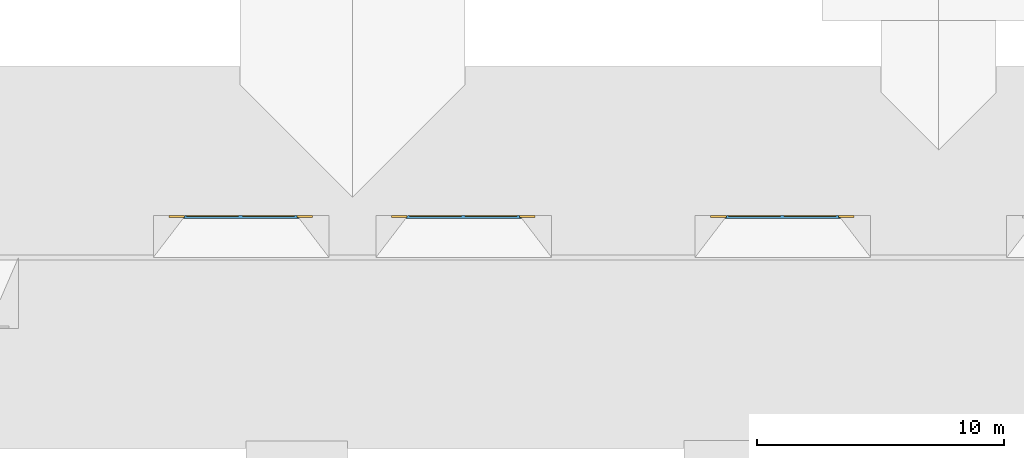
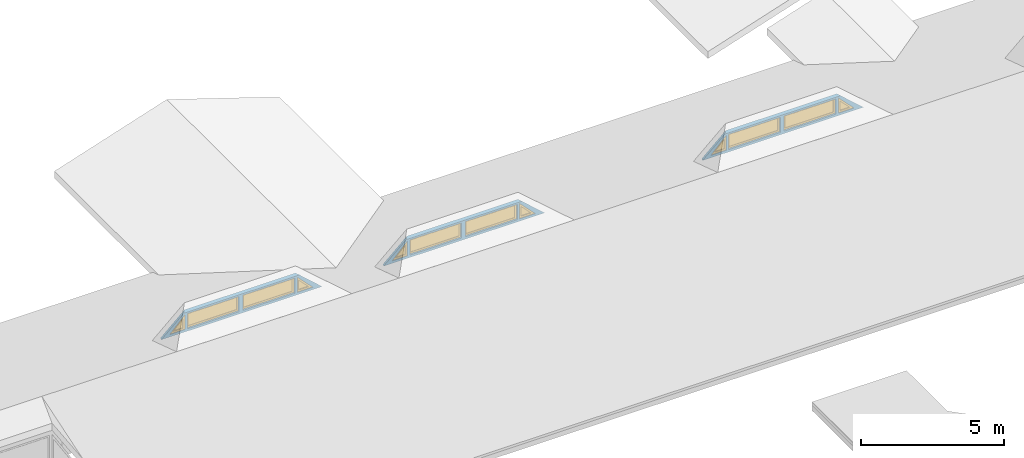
# One storey, part 4 of 7: 12 windows, 3 walls, 12 openings.
"""IFC2X3 building model written with IfcOpenShell, lengths in millimetres."""

from ifc_helpers import new_model, entity, si_unit, converted_unit, derived_unit, money_unit, direction, frame, origin_with_axes, place, context, subcontext, project, spatial, open_shell, faceted_brep, surface_model, source, transform, mapped, material, type_object, element, fill, save


model = new_model("IFC2X3")

# Units and contexts
model_context = context("Model", 3, precision=0.01, world=origin_with_axes(), true_north=direction((0.0, 1.0)))
body_context = subcontext(model_context, "Body", "Model", "MODEL_VIEW")
ifc_project = project(units=[si_unit("LENGTHUNIT", "METRE", prefix="MILLI"), si_unit("AREAUNIT", "SQUARE_METRE"), si_unit("VOLUMEUNIT", "CUBIC_METRE"), converted_unit("PLANEANGLEUNIT", "DEGREE", entity("IfcPlaneAngleMeasure", 0.0174532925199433), si_unit("PLANEANGLEUNIT", "RADIAN"), dimensions=[0, 0, 0, 0, 0, 0, 0]), money_unit("USD"), converted_unit("TIMEUNIT", "Year", entity("IfcTimeMeasure", 31557600.0), si_unit("TIMEUNIT", "SECOND"), dimensions=[0, 0, 1, 0, 0, 0, 0]), si_unit("MASSUNIT", "GRAM", prefix="KILO"), si_unit("THERMODYNAMICTEMPERATUREUNIT", "DEGREE_CELSIUS"), si_unit("LUMINOUSINTENSITYUNIT", "LUMEN"), si_unit("ENERGYUNIT", "JOULE", prefix="MEGA"), derived_unit("THERMALCONDUCTANCEUNIT", [(si_unit("POWERUNIT", "WATT"), 1), (si_unit("LENGTHUNIT", "METRE"), -1), (si_unit("THERMODYNAMICTEMPERATUREUNIT", "KELVIN"), -1)]), derived_unit("SPECIFICHEATCAPACITYUNIT", [(si_unit("ENERGYUNIT", "JOULE"), 1), (si_unit("MASSUNIT", "GRAM", prefix="KILO"), -1), (si_unit("THERMODYNAMICTEMPERATUREUNIT", "KELVIN"), -1)]), derived_unit("MASSDENSITYUNIT", [(si_unit("MASSUNIT", "GRAM", prefix="KILO"), 1), (si_unit("VOLUMEUNIT", "CUBIC_METRE"), -1)])], contexts=[model_context])

# Site, building, storey
site_placement = place(None, origin_with_axes())
site = spatial("IfcSite", under=ifc_project, at=site_placement, Name="Site", CompositionType="ELEMENT")
building_placement = place(site_placement, origin_with_axes())
building = spatial("IfcBuilding", under=site, at=building_placement, Name="Building", CompositionType="ELEMENT")
storey_placement = place(building_placement, frame((0.0, 0.0, 5900.0), z_axis=(0.0, 0.0, 1.0), x_axis=(1.0, 0.0, 0.0)))
storey = spatial("IfcBuildingStorey", under=building, at=storey_placement, Name="TAK", CompositionType="ELEMENT", Elevation=5900.0)

# Wall, openings, windows
ifc_material = material(Name="GENERIC - STRUCTURAL")
wall_type = type_object("IfcWallType", Name="GENERIC - STRUCTURAL 120", PredefinedType="NOTDEFINED")
wall_1_placement = place(storey_placement, frame((52392.09925747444, 16200.0, 1912.173367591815), z_axis=(0.0, 0.0, 1.0), x_axis=(1.0, 0.0, 0.0)))
wall_1 = element("IfcWall", 1, at=wall_1_placement, inside=storey, type_object=wall_type, material=ifc_material, Name="SW - 001", context=body_context, shape_type="Brep", body=[
    faceted_brep([(6515.801456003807, -120.0000079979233, -2.464062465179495e-05), (5599.66883635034, -120.000000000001, 818.7505434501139), (916.1326487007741, -120.000000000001, 818.7505434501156), (2.496858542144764e-05, -120.0000090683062, -2.793834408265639e-05), (3157.900742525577, -120.0000079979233, 99.99999999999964), (1057.900742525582, -120.0000079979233, 99.99999999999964), (1057.900742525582, -120.0000079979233, 749.9999999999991), (3157.900742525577, -120.0000079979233, 749.9999999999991), (5407.900742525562, -120.000000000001, 749.9999999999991), (5407.900742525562, -120.000000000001, 99.99999999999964), (3307.900742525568, -120.000000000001, 99.99999999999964), (3307.900742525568, -120.000000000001, 749.9999999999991), (338.938363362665, -120.000000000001, 99.99999999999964), (971.4383633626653, -120.000000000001, 749.9999999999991), (971.9383633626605, -120.000000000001, 99.99999999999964), (5507.900742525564, -120.0000090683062, 99.99999999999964), (5508.40074252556, -120.0000090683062, 749.9999999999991), (6140.90074252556, -120.0000090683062, 99.99999999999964), (6472.218795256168, 0.0, 0.0), (5507.900742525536, 0.0, 861.8140420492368), (1007.900742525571, 0.0, 861.814042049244), (43.58268979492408, 0.0, 0.0), (3157.900742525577, 0.0, 99.99999999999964), (1057.900742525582, 0.0, 99.99999999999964), (1057.900742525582, 0.0, 749.9999999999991), (3157.900742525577, 0.0, 749.9999999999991), (5407.900742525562, 0.0, 749.9999999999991), (5407.900742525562, 0.0, 99.99999999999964), (3307.900742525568, 0.0, 99.99999999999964), (3307.900742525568, 0.0, 749.9999999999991), (971.4383633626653, 0.0, 749.9999999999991), (338.938363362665, 0.0, 99.99999999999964), (971.9383633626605, 0.0, 99.99999999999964), (5507.900742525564, 0.0, 99.99999999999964), (5508.40074252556, 0.0, 749.9999999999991), (6140.90074252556, 0.0, 99.99999999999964)], [[[0, 1, 2, 3], [4, 5, 6, 7], [8, 9, 10, 11], [12, 13, 14], [15, 16, 17]], [[1, 0, 18, 19]], [[1, 19, 20, 2]], [[20, 21, 3, 2]], [[18, 0, 3, 21]], [[4, 22, 23, 5]], [[5, 23, 24, 6]], [[6, 24, 25, 7]], [[7, 25, 22, 4]], [[9, 8, 26, 27]], [[10, 9, 27, 28]], [[11, 10, 28, 29]], [[8, 11, 29, 26]], [[30, 13, 12, 31]], [[32, 14, 13, 30]], [[31, 12, 14, 32]], [[33, 34, 16, 15]], [[34, 35, 17, 16]], [[35, 33, 15, 17]], [[19, 18, 21, 20], [24, 23, 22, 25], [26, 29, 28, 27], [30, 31, 32], [34, 33, 35]]]),
])
opening_1_placement = place(wall_1_placement, frame((2107.90074252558, 0.0, 99.99999999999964), z_axis=(0.0, 0.0, 1.0), x_axis=(1.0, 0.0, 0.0)))
opening_1 = element("IfcOpeningElement", 2, at=opening_1_placement, cuts=wall_1, Name="WD - 001", context=body_context, shape_type="Brep", body=[
    faceted_brep([(-1049.999999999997, -121.0000000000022, 649.9999999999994), (-1049.999999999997, -121.0000000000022, 0.0), (1049.999999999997, -121.0000000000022, 0.0), (1049.999999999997, -121.0000000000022, 649.9999999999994), (-1049.999999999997, 1.000000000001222, 649.9999999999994), (-1049.999999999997, 1.000000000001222, 0.0), (1049.999999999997, 1.000000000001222, 0.0), (1049.999999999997, 1.000000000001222, 649.9999999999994)], [[[0, 1, 2, 3]], [[4, 5, 1, 0]], [[5, 6, 2, 1]], [[6, 7, 3, 2]], [[7, 4, 0, 3]], [[6, 5, 4, 7]]]),
])
opening_2_placement = place(wall_1_placement, frame((4357.900742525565, 0.0, 99.99999999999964), z_axis=(0.0, 0.0, 1.0), x_axis=(1.0, 0.0, 0.0)))
opening_2 = element("IfcOpeningElement", 3, at=opening_2_placement, cuts=wall_1, Name="WD - 001", context=body_context, shape_type="Brep", body=[
    faceted_brep([(-1049.999999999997, -121.0000000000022, 649.9999999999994), (-1049.999999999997, -121.0000000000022, 0.0), (1049.999999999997, -121.0000000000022, 0.0), (1049.999999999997, -121.0000000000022, 649.9999999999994), (-1049.999999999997, 1.000000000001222, 649.9999999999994), (-1049.999999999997, 1.000000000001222, 0.0), (1049.999999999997, 1.000000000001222, 0.0), (1049.999999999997, 1.000000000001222, 649.9999999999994)], [[[0, 1, 2, 3]], [[4, 5, 1, 0]], [[5, 6, 2, 1]], [[6, 7, 3, 2]], [[7, 4, 0, 3]], [[6, 5, 4, 7]]]),
])
opening_3_placement = place(wall_1_placement, frame((655.4383633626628, 0.0, 99.99999999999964), z_axis=(0.0, 0.0, 1.0), x_axis=(1.0, 0.0, 0.0)))
opening_3 = element("IfcOpeningElement", 4, at=opening_3_placement, cuts=wall_1, Name="WD - 001", context=body_context, shape_type="Brep", body=[
    faceted_brep([(316.0000000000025, -121.0000000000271, 649.9999999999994), (-316.4999999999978, -121.0000000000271, 0.0), (316.4999999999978, -121.0000000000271, 0.0), (316.0000000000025, 1.000000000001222, 649.9999999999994), (-316.4999999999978, 1.000000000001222, 0.0), (316.4999999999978, 1.000000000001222, 0.0)], [[[0, 1, 2]], [[3, 4, 1, 0]], [[4, 5, 2, 1]], [[5, 3, 0, 2]], [[5, 4, 3]]]),
])
opening_4_placement = place(wall_1_placement, frame((5824.400742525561, 0.0, 99.99999999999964), z_axis=(0.0, 0.0, 1.0), x_axis=(1.0, 0.0, 0.0)))
opening_4 = element("IfcOpeningElement", 5, at=opening_4_placement, cuts=wall_1, Name="WD - 001", context=body_context, shape_type="Brep", body=[
    faceted_brep([(-316.0000000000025, -121.0000000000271, 649.9999999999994), (-316.4999999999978, -121.0000000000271, 0.0), (316.4999999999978, -121.0000000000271, 0.0), (-316.0000000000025, 1.000000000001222, 649.9999999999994), (-316.4999999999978, 1.000000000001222, 0.0), (316.4999999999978, 1.000000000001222, 0.0)], [[[0, 1, 2]], [[3, 4, 1, 0]], [[4, 5, 2, 1]], [[5, 3, 0, 2]], [[5, 4, 3]]]),
])
window_style_1 = type_object("IfcWindowStyle", Name="Vindu variabelt", ConstructionType="NOTDEFINED", OperationType="SINGLE_PANEL", ParameterTakesPrecedence=False, Sizeable=False)
shared_shape_1 = source(origin_with_axes(), body_context, "Body", "SurfaceModel", [
    faceted_brep([(-984.0000000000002, -50.00000000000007, 584.0), (-984.0000000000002, 0.0, 584.0), (-1050.0, 0.0, 584.0), (-1050.0, -50.00000000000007, 584.0), (-984.0000000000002, -50.00000000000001, 66.0), (-984.0000000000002, 0.0, 66.0), (-1050.0, 0.0, 66.0), (-1050.0, -50.00000000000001, 66.0)], [[[0, 1, 2, 3]], [[4, 5, 1, 0]], [[1, 5, 6, 2]], [[3, 2, 6, 7]], [[0, 3, 7, 4]], [[7, 6, 5, 4]]]),
    faceted_brep([(984.0000000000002, -50.00000000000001, 66.0), (984.0000000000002, 0.0, 66.0), (1050.0, 0.0, 66.0), (1050.0, -50.00000000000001, 66.0), (984.0000000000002, -50.00000000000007, 584.0), (984.0000000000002, 0.0, 584.0), (1050.0, 0.0, 584.0), (1050.0, -50.00000000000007, 584.0)], [[[0, 1, 2, 3]], [[4, 5, 1, 0]], [[1, 5, 6, 2]], [[3, 2, 6, 7]], [[0, 3, 7, 4]], [[7, 6, 5, 4]]]),
    faceted_brep([(-984.0000000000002, -50.00000000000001, 66.0), (-984.0000000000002, 0.0, 66.0), (-1050.0, 0.0, 66.0), (-1050.0, -50.00000000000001, 66.0), (984.0000000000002, -50.00000000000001, 66.0), (984.0000000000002, 0.0, 66.0), (1050.0, 0.0, 66.0), (1050.0, 0.0, 0.0), (-1050.0, 0.0, 0.0), (-1050.0, -50.0, 0.0), (1050.0, -50.0, 0.0), (1050.0, -50.00000000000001, 66.0)], [[[0, 1, 2, 3]], [[4, 5, 1, 0]], [[1, 5, 6, 7, 8, 2]], [[3, 2, 8, 9]], [[0, 3, 9, 10, 11, 4]], [[11, 6, 5, 4]], [[10, 7, 6, 11]], [[9, 8, 7, 10]]]),
    faceted_brep([(984.0000000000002, -50.00000000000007, 584.0), (984.0000000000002, 0.0, 584.0), (1050.0, 0.0, 584.0), (1050.0, -50.00000000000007, 584.0), (-984.0000000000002, -50.00000000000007, 584.0), (-984.0000000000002, 0.0, 584.0), (-1050.0, 0.0, 584.0), (-1050.0, 0.0, 650.0), (1050.0, 0.0, 650.0), (1050.0, -50.00000000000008, 650.0), (-1050.0, -50.00000000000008, 650.0), (-1050.0, -50.00000000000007, 584.0)], [[[0, 1, 2, 3]], [[4, 5, 1, 0]], [[1, 5, 6, 7, 8, 2]], [[3, 2, 8, 9]], [[0, 3, 9, 10, 11, 4]], [[11, 6, 5, 4]], [[10, 7, 6, 11]], [[9, 8, 7, 10]]]),
    surface_model("IfcShellBasedSurfaceModel", [(-984.0000000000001, -35.00000000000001, 66.0), (984.0000000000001, -35.00000000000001, 66.0), (984.0000000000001, -35.00000000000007, 583.9999999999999), (-984.0000000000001, -35.00000000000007, 583.9999999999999)], [open_shell([[[0, 1, 2, 3]]])]),
    surface_model("IfcShellBasedSurfaceModel", [(-984.0000000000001, -15.00000000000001, 66.0), (-984.0000000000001, -15.00000000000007, 583.9999999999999), (984.0000000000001, -15.00000000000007, 583.9999999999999), (984.0000000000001, -15.00000000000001, 66.0)], [open_shell([[[0, 1, 2, 3]]])]),
])
window_1_placement = place(opening_1_placement, frame((-1049.999999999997, 0.0, 0.0), z_axis=(0.0, 0.0, 1.0), x_axis=(1.0, 0.0, 0.0)))
window_1 = element("IfcWindow", 6, at=window_1_placement, inside=storey, type_object=window_style_1, Name="WD - 001", ObjectType="WINDOW", OverallHeight=650.0, OverallWidth=2100.0, context=body_context, shape_type="MappedRepresentation", body=[
    mapped(shared_shape_1, transform((1049.999999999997, 0.0, 0.0))),
])
fill(opening_1, window_1)
window_2_placement = place(opening_2_placement, frame((-1049.999999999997, 0.0, 0.0), z_axis=(0.0, 0.0, 1.0), x_axis=(1.0, 0.0, 0.0)))
window_2 = element("IfcWindow", 7, at=window_2_placement, inside=storey, type_object=window_style_1, Name="WD - 001", ObjectType="WINDOW", OverallHeight=650.0, OverallWidth=2100.0, context=body_context, shape_type="MappedRepresentation", body=[
    mapped(shared_shape_1, transform((1049.999999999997, 0.0, 0.0))),
])
fill(opening_2, window_2)
window_style_2 = type_object("IfcWindowStyle", Name="Vindu trekantet", ConstructionType="NOTDEFINED", OperationType="USERDEFINED", ParameterTakesPrecedence=False, Sizeable=False)
shared_shape_2 = source(origin_with_axes(), body_context, "Body", "SurfaceModel", [
    faceted_brep([(316.5, -92.0, 0.0), (160.1867302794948, -92.0, 66.0), (160.1867302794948, 0.0, 66.0), (316.5, 0.0, 0.0), (-316.0, -92.00000000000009, 649.9999999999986), (-250.1248542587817, -92.00000000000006, 487.6640789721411), (-250.1248542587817, 0.0, 487.6640789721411), (-316.0, 0.0, 649.9999999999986)], [[[0, 1, 2, 3]], [[0, 4, 5, 1]], [[1, 5, 6, 2]], [[3, 2, 6, 7]], [[4, 0, 3, 7]], [[5, 4, 7, 6]]]),
    faceted_brep([(-316.0, -92.00000000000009, 649.9999999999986), (-250.1248542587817, -92.00000000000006, 487.6640789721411), (-250.1248542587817, 0.0, 487.6640789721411), (-316.0, 0.0, 649.9999999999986), (-316.5, -92.0, 0.0), (-250.4492112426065, -92.0, 66.0), (-250.4492112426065, 0.0, 66.0), (-316.5, 0.0, 0.0)], [[[0, 1, 2, 3]], [[0, 4, 5, 1]], [[1, 5, 6, 2]], [[3, 2, 6, 7]], [[4, 0, 3, 7]], [[5, 4, 7, 6]]]),
    faceted_brep([(316.5, -92.0, 0.0), (-316.5, -92.0, 0.0), (-316.5, 0.0, 0.0), (316.5, 0.0, 0.0), (160.1867302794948, -92.0, 66.0), (-250.4492112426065, -92.0, 66.0), (-250.4492112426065, 0.0, 66.0), (160.1867302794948, 0.0, 66.0)], [[[0, 1, 2, 3]], [[0, 4, 5, 1]], [[1, 5, 6, 2]], [[3, 2, 6, 7]], [[4, 0, 3, 7]], [[5, 4, 7, 6]]]),
    surface_model("IfcShellBasedSurfaceModel", [(160.1867302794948, -56.0, 66.0), (-250.1248542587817, -56.00000000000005, 487.664078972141), (-250.4492112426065, -56.0, 66.0)], [open_shell([[[0, 1, 2]]])]),
    surface_model("IfcShellBasedSurfaceModel", [(160.1867302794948, -36.00000000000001, 66.0), (-250.4492112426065, -36.00000000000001, 66.0), (-250.1248542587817, -36.00000000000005, 487.664078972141)], [open_shell([[[0, 1, 2]]])]),
])
window_3_placement = place(opening_4_placement, frame((-316.4999999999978, 0.0, 0.0), z_axis=(0.0, 0.0, 1.0), x_axis=(1.0, 0.0, 0.0)))
window_3 = element("IfcWindow", 8, at=window_3_placement, inside=storey, type_object=window_style_2, Name="WD - 001", ObjectType="WINDOW", OverallHeight=650.0, OverallWidth=633.0, context=body_context, shape_type="MappedRepresentation", body=[
    mapped(shared_shape_2, transform((316.4999999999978, 0.0, 0.0))),
])
fill(opening_4, window_3)
shared_shape_3 = source(origin_with_axes(), body_context, "Body", "SurfaceModel", [
    faceted_brep([(-316.5, -92.0, 0.0), (-316.5, 0.0, 0.0), (-160.1867302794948, 0.0, 66.0), (-160.1867302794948, -92.0, 66.0), (316.0, -92.00000000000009, 649.9999999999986), (316.0, 0.0, 649.9999999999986), (250.1248542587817, 0.0, 487.6640789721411), (250.1248542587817, -92.00000000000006, 487.6640789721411)], [[[0, 1, 2, 3]], [[4, 5, 1, 0]], [[1, 5, 6, 2]], [[3, 2, 6, 7]], [[0, 3, 7, 4]], [[7, 6, 5, 4]]]),
    faceted_brep([(316.0, -92.00000000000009, 649.9999999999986), (316.0, 0.0, 649.9999999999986), (250.1248542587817, 0.0, 487.6640789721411), (250.1248542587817, -92.00000000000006, 487.6640789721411), (316.5, -92.0, 0.0), (316.5, 0.0, 0.0), (250.4492112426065, 0.0, 66.0), (250.4492112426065, -92.0, 66.0)], [[[0, 1, 2, 3]], [[4, 5, 1, 0]], [[1, 5, 6, 2]], [[3, 2, 6, 7]], [[0, 3, 7, 4]], [[7, 6, 5, 4]]]),
    faceted_brep([(-316.5, -92.0, 0.0), (-316.5, 0.0, 0.0), (316.5, 0.0, 0.0), (316.5, -92.0, 0.0), (-160.1867302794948, -92.0, 66.0), (-160.1867302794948, 0.0, 66.0), (250.4492112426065, 0.0, 66.0), (250.4492112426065, -92.0, 66.0)], [[[0, 1, 2, 3]], [[4, 5, 1, 0]], [[1, 5, 6, 2]], [[3, 2, 6, 7]], [[0, 3, 7, 4]], [[7, 6, 5, 4]]]),
    surface_model("IfcShellBasedSurfaceModel", [(-160.1867302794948, -56.0, 66.0), (250.4492112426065, -56.0, 66.0), (250.1248542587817, -56.00000000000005, 487.664078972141)], [open_shell([[[0, 1, 2]]])]),
    surface_model("IfcShellBasedSurfaceModel", [(-160.1867302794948, -36.00000000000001, 66.0), (250.1248542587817, -36.00000000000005, 487.664078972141), (250.4492112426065, -36.00000000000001, 66.0)], [open_shell([[[0, 1, 2]]])]),
])
window_4_placement = place(opening_3_placement, frame((-316.4999999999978, 0.0, 0.0), z_axis=(0.0, 0.0, 1.0), x_axis=(1.0, 0.0, 0.0)))
window_4 = element("IfcWindow", 9, at=window_4_placement, inside=storey, type_object=window_style_2, Name="WD - 001", ObjectType="WINDOW", OverallHeight=650.0, OverallWidth=633.0, context=body_context, shape_type="MappedRepresentation", body=[
    mapped(shared_shape_3, transform((316.4999999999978, 0.0, 0.0))),
])
fill(opening_3, window_4)

wall_2_placement = place(storey_placement, frame((30492.09925747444, 16200.0, 1912.173367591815), z_axis=(0.0, 0.0, 1.0), x_axis=(1.0, 0.0, 0.0)))
wall_2 = element("IfcWall", 10, at=wall_2_placement, inside=storey, type_object=wall_type, material=ifc_material, Name="SW - 001", context=body_context, shape_type="Brep", body=[
    faceted_brep([(6515.801456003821, -120.0000079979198, -2.464061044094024e-05), (5599.668836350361, -120.000000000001, 818.7505434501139), (916.132648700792, -120.000000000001, 818.7505434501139), (2.4968592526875e-05, -120.0000090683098, -2.793835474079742e-05), (3157.900742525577, -120.0000079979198, 99.99999999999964), (1057.900742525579, -120.0000079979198, 99.99999999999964), (1057.900742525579, -120.0000079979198, 749.9999999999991), (3157.900742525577, -120.0000079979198, 749.9999999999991), (5407.900742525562, -120.000000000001, 749.9999999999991), (5407.900742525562, -120.000000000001, 99.99999999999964), (3307.900742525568, -120.000000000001, 99.99999999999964), (3307.900742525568, -120.000000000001, 749.9999999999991), (338.938363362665, -120.000000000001, 99.99999999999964), (971.4383633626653, -120.000000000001, 749.9999999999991), (971.9383633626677, -120.000000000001, 99.99999999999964), (5507.900742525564, -120.0000090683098, 99.99999999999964), (5508.40074252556, -120.0000090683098, 749.9999999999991), (6140.90074252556, -120.0000090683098, 99.99999999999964), (6472.218795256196, 0.0, 0.0), (5507.900742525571, 0.0, 861.814042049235), (1007.900742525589, 0.0, 861.8140420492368), (43.5826897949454, 0.0, 0.0), (3157.900742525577, 0.0, 99.99999999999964), (1057.900742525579, 0.0, 99.99999999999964), (1057.900742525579, 0.0, 749.9999999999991), (3157.900742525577, 0.0, 749.9999999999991), (5407.900742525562, 0.0, 749.9999999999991), (5407.900742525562, 0.0, 99.99999999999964), (3307.900742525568, 0.0, 99.99999999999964), (3307.900742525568, 0.0, 749.9999999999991), (971.4383633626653, 0.0, 749.9999999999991), (338.938363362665, 0.0, 99.99999999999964), (971.9383633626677, 0.0, 99.99999999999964), (5507.900742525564, 0.0, 99.99999999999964), (5508.40074252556, 0.0, 749.9999999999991), (6140.90074252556, 0.0, 99.99999999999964)], [[[0, 1, 2, 3], [4, 5, 6, 7], [8, 9, 10, 11], [12, 13, 14], [15, 16, 17]], [[1, 0, 18, 19]], [[1, 19, 20, 2]], [[20, 21, 3, 2]], [[18, 0, 3, 21]], [[4, 22, 23, 5]], [[5, 23, 24, 6]], [[6, 24, 25, 7]], [[7, 25, 22, 4]], [[9, 8, 26, 27]], [[10, 9, 27, 28]], [[11, 10, 28, 29]], [[8, 11, 29, 26]], [[30, 13, 12, 31]], [[32, 14, 13, 30]], [[31, 12, 14, 32]], [[33, 34, 16, 15]], [[34, 35, 17, 16]], [[35, 33, 15, 17]], [[19, 18, 21, 20], [24, 23, 22, 25], [26, 29, 28, 27], [30, 31, 32], [34, 33, 35]]]),
])
opening_5_placement = place(wall_2_placement, frame((2107.90074252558, 0.0, 99.99999999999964), z_axis=(0.0, 0.0, 1.0), x_axis=(1.0, 0.0, 0.0)))
opening_5 = element("IfcOpeningElement", 11, at=opening_5_placement, cuts=wall_2, Name="WD - 001", context=body_context, shape_type="Brep", body=[
    faceted_brep([(-1050.000000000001, -121.0000000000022, 649.9999999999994), (-1050.000000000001, -121.0000000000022, 0.0), (1049.999999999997, -121.0000000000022, 0.0), (1049.999999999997, -121.0000000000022, 649.9999999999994), (-1050.000000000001, 1.000000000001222, 649.9999999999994), (-1050.000000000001, 1.000000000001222, 0.0), (1049.999999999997, 1.000000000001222, 0.0), (1049.999999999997, 1.000000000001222, 649.9999999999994)], [[[0, 1, 2, 3]], [[4, 5, 1, 0]], [[5, 6, 2, 1]], [[6, 7, 3, 2]], [[7, 4, 0, 3]], [[6, 5, 4, 7]]]),
])
opening_6_placement = place(wall_2_placement, frame((4357.900742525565, 0.0, 99.99999999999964), z_axis=(0.0, 0.0, 1.0), x_axis=(1.0, 0.0, 0.0)))
opening_6 = element("IfcOpeningElement", 12, at=opening_6_placement, cuts=wall_2, Name="WD - 001", context=body_context, shape_type="Brep", body=[
    faceted_brep([(-1049.999999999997, -121.0000000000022, 649.9999999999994), (-1049.999999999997, -121.0000000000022, 0.0), (1049.999999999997, -121.0000000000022, 0.0), (1049.999999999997, -121.0000000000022, 649.9999999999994), (-1049.999999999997, 1.000000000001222, 649.9999999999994), (-1049.999999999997, 1.000000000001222, 0.0), (1049.999999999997, 1.000000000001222, 0.0), (1049.999999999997, 1.000000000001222, 649.9999999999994)], [[[0, 1, 2, 3]], [[4, 5, 1, 0]], [[5, 6, 2, 1]], [[6, 7, 3, 2]], [[7, 4, 0, 3]], [[6, 5, 4, 7]]]),
])
opening_7_placement = place(wall_2_placement, frame((655.4383633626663, 0.0, 99.99999999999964), z_axis=(0.0, 0.0, 1.0), x_axis=(1.0, 0.0, 0.0)))
opening_7 = element("IfcOpeningElement", 13, at=opening_7_placement, cuts=wall_2, Name="WD - 001", context=body_context, shape_type="Brep", body=[
    faceted_brep([(315.999999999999, -121.0000000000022, 649.9999999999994), (-316.5000000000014, -121.0000000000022, 0.0), (316.5000000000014, -121.0000000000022, 0.0), (315.999999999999, 1.000000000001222, 649.9999999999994), (-316.5000000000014, 1.000000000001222, 0.0), (316.5000000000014, 1.000000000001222, 0.0)], [[[0, 1, 2]], [[3, 4, 1, 0]], [[4, 5, 2, 1]], [[5, 3, 0, 2]], [[5, 4, 3]]]),
])
opening_8_placement = place(wall_2_placement, frame((5824.400742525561, 0.0, 99.99999999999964), z_axis=(0.0, 0.0, 1.0), x_axis=(1.0, 0.0, 0.0)))
opening_8 = element("IfcOpeningElement", 14, at=opening_8_placement, cuts=wall_2, Name="WD - 001", context=body_context, shape_type="Brep", body=[
    faceted_brep([(-316.0000000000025, -121.0000000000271, 649.9999999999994), (-316.4999999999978, -121.0000000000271, 0.0), (316.4999999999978, -121.0000000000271, 0.0), (-316.0000000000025, 1.000000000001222, 649.9999999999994), (-316.4999999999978, 1.000000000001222, 0.0), (316.4999999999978, 1.000000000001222, 0.0)], [[[0, 1, 2]], [[3, 4, 1, 0]], [[4, 5, 2, 1]], [[5, 3, 0, 2]], [[5, 4, 3]]]),
])
window_5_placement = place(opening_5_placement, frame((-1050.000000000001, 0.0, 0.0), z_axis=(0.0, 0.0, 1.0), x_axis=(1.0, 0.0, 0.0)))
window_5 = element("IfcWindow", 15, at=window_5_placement, inside=storey, type_object=window_style_1, Name="WD - 001", ObjectType="WINDOW", OverallHeight=650.0, OverallWidth=2100.0, context=body_context, shape_type="MappedRepresentation", body=[
    mapped(shared_shape_1, transform((1050.000000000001, 0.0, 0.0))),
])
fill(opening_5, window_5)
window_6_placement = place(opening_6_placement, frame((-1049.999999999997, 0.0, 0.0), z_axis=(0.0, 0.0, 1.0), x_axis=(1.0, 0.0, 0.0)))
window_6 = element("IfcWindow", 16, at=window_6_placement, inside=storey, type_object=window_style_1, Name="WD - 001", ObjectType="WINDOW", OverallHeight=650.0, OverallWidth=2100.0, context=body_context, shape_type="MappedRepresentation", body=[
    mapped(shared_shape_1, transform((1049.999999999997, 0.0, 0.0))),
])
fill(opening_6, window_6)
window_7_placement = place(opening_8_placement, frame((-316.4999999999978, 0.0, 0.0), z_axis=(0.0, 0.0, 1.0), x_axis=(1.0, 0.0, 0.0)))
window_7 = element("IfcWindow", 17, at=window_7_placement, inside=storey, type_object=window_style_2, Name="WD - 001", ObjectType="WINDOW", OverallHeight=650.0, OverallWidth=633.0, context=body_context, shape_type="MappedRepresentation", body=[
    mapped(shared_shape_2, transform((316.4999999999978, 0.0, 0.0))),
])
fill(opening_8, window_7)
window_8_placement = place(opening_7_placement, frame((-316.5000000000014, 0.0, 0.0), z_axis=(0.0, 0.0, 1.0), x_axis=(1.0, 0.0, 0.0)))
window_8 = element("IfcWindow", 18, at=window_8_placement, inside=storey, type_object=window_style_2, Name="WD - 001", ObjectType="WINDOW", OverallHeight=650.0, OverallWidth=633.0, context=body_context, shape_type="MappedRepresentation", body=[
    mapped(shared_shape_3, transform((316.5000000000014, 0.0, 0.0))),
])
fill(opening_7, window_8)

wall_3_placement = place(storey_placement, frame((39492.09925747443, 16200.0, 1912.173367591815), z_axis=(0.0, 0.0, 1.0), x_axis=(1.0, 0.0, 0.0)))
wall_3 = element("IfcWall", 19, at=wall_3_placement, inside=storey, type_object=wall_type, material=ifc_material, Name="SW - 001", context=body_context, shape_type="Brep", body=[
    faceted_brep([(6515.801456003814, -120.0000079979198, -2.464061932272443e-05), (5599.668836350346, -120.000000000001, 818.7505434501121), (916.1326487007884, -120.000000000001, 818.7505434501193), (2.496858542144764e-05, -120.0000090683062, -2.793834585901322e-05), (3157.900742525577, -120.0000079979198, 99.99999999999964), (1057.900742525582, -120.0000079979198, 99.99999999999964), (1057.900742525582, -120.0000079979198, 749.9999999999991), (3157.900742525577, -120.0000079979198, 749.9999999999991), (5407.900742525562, -120.000000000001, 749.9999999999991), (5407.900742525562, -120.000000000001, 99.99999999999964), (3307.900742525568, -120.000000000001, 99.99999999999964), (3307.900742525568, -120.000000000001, 749.9999999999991), (338.938363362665, -120.000000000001, 99.99999999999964), (971.4383633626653, -120.000000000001, 749.9999999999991), (971.9383633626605, -120.000000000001, 99.99999999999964), (5507.900742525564, -120.0000090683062, 99.99999999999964), (5508.40074252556, -120.0000090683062, 749.9999999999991), (6140.90074252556, -120.0000090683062, 99.99999999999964), (6472.218795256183, 0.0, 0.0), (5507.900742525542, 0.0, 861.814042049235), (1007.900742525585, 0.0, 861.8140420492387), (43.58268979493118, 0.0, 0.0), (3157.900742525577, 0.0, 99.99999999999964), (1057.900742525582, 0.0, 99.99999999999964), (1057.900742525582, 0.0, 749.9999999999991), (3157.900742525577, 0.0, 749.9999999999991), (5407.900742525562, 0.0, 749.9999999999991), (5407.900742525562, 0.0, 99.99999999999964), (3307.900742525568, 0.0, 99.99999999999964), (3307.900742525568, 0.0, 749.9999999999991), (971.4383633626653, 0.0, 749.9999999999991), (338.938363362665, 0.0, 99.99999999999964), (971.9383633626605, 0.0, 99.99999999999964), (5507.900742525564, 0.0, 99.99999999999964), (5508.40074252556, 0.0, 749.9999999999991), (6140.90074252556, 0.0, 99.99999999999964)], [[[0, 1, 2, 3], [4, 5, 6, 7], [8, 9, 10, 11], [12, 13, 14], [15, 16, 17]], [[1, 0, 18, 19]], [[1, 19, 20, 2]], [[20, 21, 3, 2]], [[18, 0, 3, 21]], [[4, 22, 23, 5]], [[5, 23, 24, 6]], [[6, 24, 25, 7]], [[7, 25, 22, 4]], [[9, 8, 26, 27]], [[10, 9, 27, 28]], [[11, 10, 28, 29]], [[8, 11, 29, 26]], [[30, 13, 12, 31]], [[32, 14, 13, 30]], [[31, 12, 14, 32]], [[33, 34, 16, 15]], [[34, 35, 17, 16]], [[35, 33, 15, 17]], [[19, 18, 21, 20], [24, 23, 22, 25], [26, 29, 28, 27], [30, 31, 32], [34, 33, 35]]]),
])
opening_9_placement = place(wall_3_placement, frame((4357.900742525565, 0.0, 99.99999999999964), z_axis=(0.0, 0.0, 1.0), x_axis=(1.0, 0.0, 0.0)))
opening_9 = element("IfcOpeningElement", 20, at=opening_9_placement, cuts=wall_3, Name="WD - 001", context=body_context, shape_type="Brep", body=[
    faceted_brep([(-1049.999999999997, -121.0000000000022, 649.9999999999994), (-1049.999999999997, -121.0000000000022, 0.0), (1049.999999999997, -121.0000000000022, 0.0), (1049.999999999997, -121.0000000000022, 649.9999999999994), (-1049.999999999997, 1.000000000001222, 649.9999999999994), (-1049.999999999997, 1.000000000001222, 0.0), (1049.999999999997, 1.000000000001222, 0.0), (1049.999999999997, 1.000000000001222, 649.9999999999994)], [[[0, 1, 2, 3]], [[4, 5, 1, 0]], [[5, 6, 2, 1]], [[6, 7, 3, 2]], [[7, 4, 0, 3]], [[6, 5, 4, 7]]]),
])
opening_10_placement = place(wall_3_placement, frame((2107.90074252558, 0.0, 99.99999999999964), z_axis=(0.0, 0.0, 1.0), x_axis=(1.0, 0.0, 0.0)))
opening_10 = element("IfcOpeningElement", 21, at=opening_10_placement, cuts=wall_3, Name="WD - 001", context=body_context, shape_type="Brep", body=[
    faceted_brep([(-1049.999999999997, -121.0000000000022, 649.9999999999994), (-1049.999999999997, -121.0000000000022, 0.0), (1049.999999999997, -121.0000000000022, 0.0), (1049.999999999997, -121.0000000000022, 649.9999999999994), (-1049.999999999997, 1.000000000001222, 649.9999999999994), (-1049.999999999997, 1.000000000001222, 0.0), (1049.999999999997, 1.000000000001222, 0.0), (1049.999999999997, 1.000000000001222, 649.9999999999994)], [[[0, 1, 2, 3]], [[4, 5, 1, 0]], [[5, 6, 2, 1]], [[6, 7, 3, 2]], [[7, 4, 0, 3]], [[6, 5, 4, 7]]]),
])
opening_11_placement = place(wall_3_placement, frame((5824.400742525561, 0.0, 99.99999999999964), z_axis=(0.0, 0.0, 1.0), x_axis=(1.0, 0.0, 0.0)))
opening_11 = element("IfcOpeningElement", 22, at=opening_11_placement, cuts=wall_3, Name="WD - 001", context=body_context, shape_type="Brep", body=[
    faceted_brep([(-316.0000000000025, -121.0000000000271, 649.9999999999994), (-316.4999999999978, -121.0000000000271, 0.0), (316.4999999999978, -121.0000000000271, 0.0), (-316.0000000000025, 1.000000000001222, 649.9999999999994), (-316.4999999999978, 1.000000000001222, 0.0), (316.4999999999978, 1.000000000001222, 0.0)], [[[0, 1, 2]], [[3, 4, 1, 0]], [[4, 5, 2, 1]], [[5, 3, 0, 2]], [[5, 4, 3]]]),
])
opening_12_placement = place(wall_3_placement, frame((655.4383633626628, 0.0, 99.99999999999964), z_axis=(0.0, 0.0, 1.0), x_axis=(1.0, 0.0, 0.0)))
opening_12 = element("IfcOpeningElement", 23, at=opening_12_placement, cuts=wall_3, Name="WD - 001", context=body_context, shape_type="Brep", body=[
    faceted_brep([(316.0000000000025, -121.0000000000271, 649.9999999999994), (-316.4999999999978, -121.0000000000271, 0.0), (316.4999999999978, -121.0000000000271, 0.0), (316.0000000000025, 1.000000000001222, 649.9999999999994), (-316.4999999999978, 1.000000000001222, 0.0), (316.4999999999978, 1.000000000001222, 0.0)], [[[0, 1, 2]], [[3, 4, 1, 0]], [[4, 5, 2, 1]], [[5, 3, 0, 2]], [[5, 4, 3]]]),
])
window_9_placement = place(opening_10_placement, frame((-1049.999999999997, 0.0, 0.0), z_axis=(0.0, 0.0, 1.0), x_axis=(1.0, 0.0, 0.0)))
window_9 = element("IfcWindow", 24, at=window_9_placement, inside=storey, type_object=window_style_1, Name="WD - 001", ObjectType="WINDOW", OverallHeight=650.0, OverallWidth=2100.0, context=body_context, shape_type="MappedRepresentation", body=[
    mapped(shared_shape_1, transform((1049.999999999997, 0.0, 0.0))),
])
fill(opening_10, window_9)
window_10_placement = place(opening_9_placement, frame((-1049.999999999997, 0.0, 0.0), z_axis=(0.0, 0.0, 1.0), x_axis=(1.0, 0.0, 0.0)))
window_10 = element("IfcWindow", 25, at=window_10_placement, inside=storey, type_object=window_style_1, Name="WD - 001", ObjectType="WINDOW", OverallHeight=650.0, OverallWidth=2100.0, context=body_context, shape_type="MappedRepresentation", body=[
    mapped(shared_shape_1, transform((1049.999999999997, 0.0, 0.0))),
])
fill(opening_9, window_10)
window_11_placement = place(opening_11_placement, frame((-316.4999999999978, 0.0, 0.0), z_axis=(0.0, 0.0, 1.0), x_axis=(1.0, 0.0, 0.0)))
window_11 = element("IfcWindow", 26, at=window_11_placement, inside=storey, type_object=window_style_2, Name="WD - 001", ObjectType="WINDOW", OverallHeight=650.0, OverallWidth=633.0, context=body_context, shape_type="MappedRepresentation", body=[
    mapped(shared_shape_2, transform((316.4999999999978, 0.0, 0.0))),
])
fill(opening_11, window_11)
window_12_placement = place(opening_12_placement, frame((-316.4999999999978, 0.0, 0.0), z_axis=(0.0, 0.0, 1.0), x_axis=(1.0, 0.0, 0.0)))
window_12 = element("IfcWindow", 27, at=window_12_placement, inside=storey, type_object=window_style_2, Name="WD - 001", ObjectType="WINDOW", OverallHeight=650.0, OverallWidth=633.0, context=body_context, shape_type="MappedRepresentation", body=[
    mapped(shared_shape_3, transform((316.4999999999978, 0.0, 0.0))),
])
fill(opening_12, window_12)

save(model, "model.ifc")
